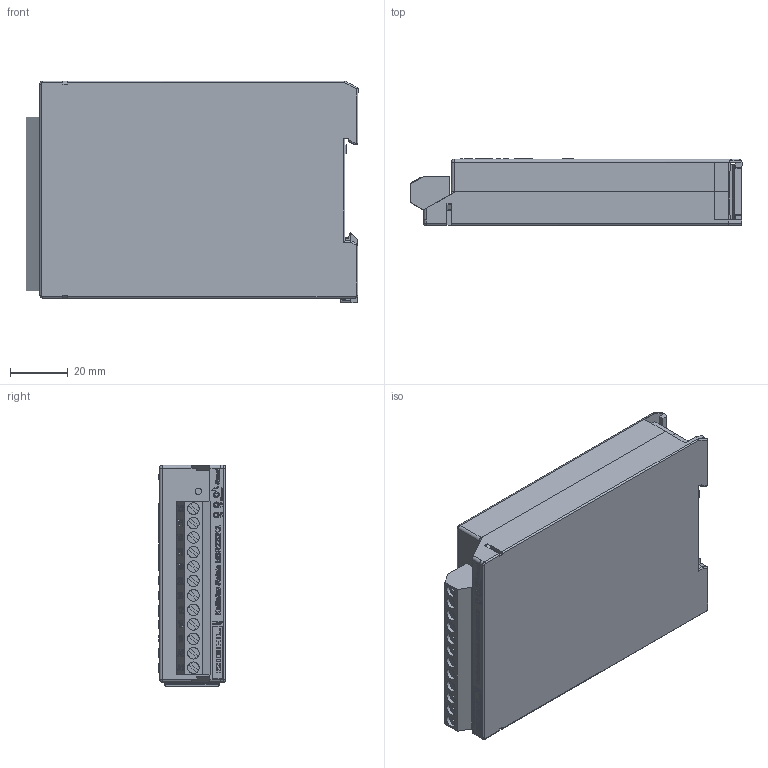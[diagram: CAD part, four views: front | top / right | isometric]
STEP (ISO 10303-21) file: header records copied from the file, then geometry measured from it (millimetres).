
FILE_DESCRIPTION (( 'STEP AP214' ), '1' );
FILE_NAME ('1148 1930_MSRK2_2U_3D.STEP', '2014-06-04T13:18:29', ( '' ), ( '' ), 'SwSTEP 2.0', 'SolidWorks 2014', '' );
FILE_SCHEMA (( 'AUTOMOTIVE_DESIGN' ));
Length unit declared in the file: millimetre
Products named in the file (10): K-Riegel; MSR_Klemmen_3D; 31147112; 1148 1221_MSR220K2_3D; pan head cross recess screw_din_ISO 7045 - M3 x 4 - Z --- 4N; Kopie von K-Leiterpklatte 60 lang^1148 1930_MSRK2_2U_3D; 1045 1920 K-Deckel; MSRK2_schmal+LED+Loch; 1045 1940 K-UT_3D; 1148 1930_MSRK2_2U_3D
Assembly tree (9 placements, depth 2):
  1148 1930_MSRK2_2U_3D
    1045 1940 K-UT_3D
    MSRK2_schmal+LED+Loch
    1045 1920 K-Deckel
    Kopie von K-Leiterpklatte 60 lang^1148 1930_MSRK2_2U_3D
    pan head cross recess screw_din_ISO 7045 - M3 x 4 - Z --- 4N
    1148 1221_MSR220K2_3D
    31147112
    MSR_Klemmen_3D
    K-Riegel
Bounding box: 114.78 x 23.04 x 76.65 mm (x, y, z)
Volume: 51403.4 mm3; surface area: 64757.7 mm2
Topology: 294 solids, 294 shells, 3713 faces, 9003 edges, 5926 vertices
Faces by surface type: plane 2850, bspline 617, cylinder 176, cone 25, torus 23, sphere 22
Full cylindrical faces by diameter (mm): 1 x12, 1.5 x7, 2.8 x2, 3 x12, 3.1 x12, 3.6 x1, 4 x12, 4.2 x1, 5.6 x1, 6 x1, 6.8 x1, 7 x1, 7.2 x1, 9 x1
Entity records: 125912 total; most frequent: CARTESIAN_POINT 37494, ORIENTED_EDGE 17724, DIRECTION 14135, EDGE_CURVE 8862, LINE 7151, VECTOR 7151, VERTEX_POINT 5901, EDGE_LOOP 4067
